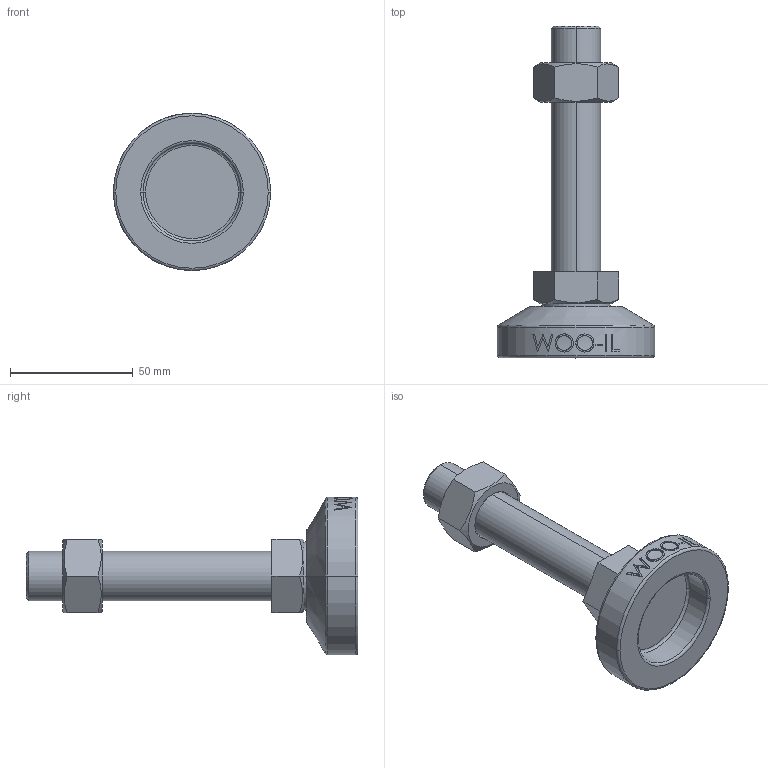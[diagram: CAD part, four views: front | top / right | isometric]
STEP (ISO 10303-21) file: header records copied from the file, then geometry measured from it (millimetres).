
FILE_DESCRIPTION (( 'STEP AP214' ), '1' );
FILE_NAME ('MFZ64-M20-100.step', '2021-01-15T07:06:55', ( '' ), ( '' ), 'SwSTEP 2.0', 'SolidWorks 2019', '' );
FILE_SCHEMA (( 'AUTOMOTIVE_DESIGN' ));
Length unit declared in the file: millimetre
Products named in the file (2): MFZ64-M20-100
Bounding box: 64 x 135 x 64 mm (x, y, z)
Volume: 93204.8 mm3; surface area: 23254.5 mm2
Topology: 3 solids, 3 shells, 106 faces, 247 edges, 158 vertices
Faces by surface type: plane 48, cylinder 18, bspline 16, cone 14, torus 10
Entity records: 4564 total; most frequent: CARTESIAN_POINT 2201, ORIENTED_EDGE 494, DIRECTION 439, EDGE_CURVE 247, AXIS2_PLACEMENT_3D 170, VERTEX_POINT 158, EDGE_LOOP 119, FACE_OUTER_BOUND 106
